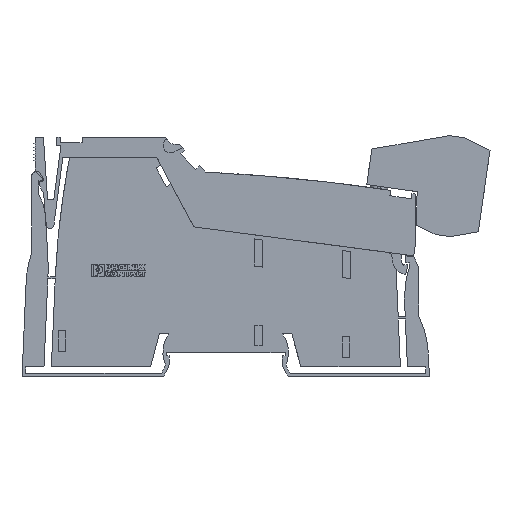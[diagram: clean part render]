
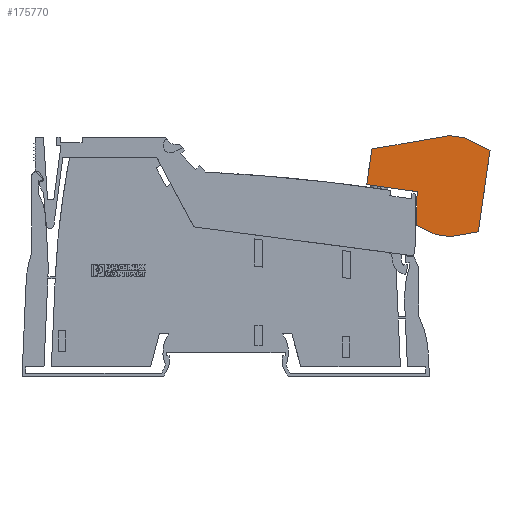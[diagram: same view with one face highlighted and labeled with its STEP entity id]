
A CAD part, left-side view. The second image highlights one B-rep face of the part: STEP entity #175770.
In plain terms, the highlighted planar face has unit normal (-1, 0, 0) as drawn and (0, 0, 1) by its records, which use the part's own axes.
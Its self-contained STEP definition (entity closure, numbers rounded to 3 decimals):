
#167170=CARTESIAN_POINT('',(22.423,97.146,
-35.525));
#167180=VERTEX_POINT('',#167170);
#167210=CARTESIAN_POINT('',(17.654,88.365,
-35.525));
#167220=DIRECTION('',(0.477,0.879,0.));
#167230=VECTOR('',#167220,1.);
#167240=LINE('',#167210,#167230);
#167250=CARTESIAN_POINT('',(27.158,105.862,
-35.525));
#167260=VERTEX_POINT('',#167250);
#167270=EDGE_CURVE('',#167180,#167260,#167240,.T.);
#168970=CARTESIAN_POINT('',(-16.172,77.267,
-35.525));
#168980=DIRECTION('',(-0.588,-0.809,0.));
#168990=VECTOR('',#168980,1.);
#169000=LINE('',#168970,#168990);
#169010=CARTESIAN_POINT('',(11.971,115.991,
-35.525));
#169020=VERTEX_POINT('',#169010);
#169030=CARTESIAN_POINT('',(-2.256,96.415,
-35.525));
#169040=VERTEX_POINT('',#169030);
#169050=EDGE_CURVE('',#169020,#169040,#169000,.T.);
#170840=CARTESIAN_POINT('',(19.971,113.391,
-35.525));
#170850=VERTEX_POINT('',#170840);
#170880=CARTESIAN_POINT('',(19.471,113.554,
-35.525));
#170890=DIRECTION('',(0.951,-0.309,0.));
#170900=VECTOR('',#170890,1.);
#170910=LINE('',#170880,#170900);
#170920=EDGE_CURVE('',#169020,#170850,#170910,.T.);
#172760=CARTESIAN_POINT('',(23.611,110.746,
-35.525));
#172770=VERTEX_POINT('',#172760);
#172800=CARTESIAN_POINT('',(19.567,113.685,
-35.525));
#172810=DIRECTION('',(0.809,-0.588,0.));
#172820=VECTOR('',#172810,1.);
#172830=LINE('',#172800,#172820);
#172840=EDGE_CURVE('',#170850,#172770,#172830,.T.);
#175220=CARTESIAN_POINT('',(10.83,96.717,
-35.525));
#175230=DIRECTION('',(0.,0.,1.));
#175240=DIRECTION('',(-0.809,0.588,0.));
#175250=AXIS2_PLACEMENT_3D('',#175220,#175230,#175240);
#175260=PLANE('',#175250);
#175270=ORIENTED_EDGE('',*,*,#169050,.T.);
#175280=ORIENTED_EDGE('',*,*,#170920,.F.);
#175290=ORIENTED_EDGE('',*,*,#172840,.F.);
#175300=CARTESIAN_POINT('',(21.758,113.298,
-35.525));
#175310=DIRECTION('',(-0.588,0.809,0.));
#175320=VECTOR('',#175310,1.);
#175330=LINE('',#175300,#175320);
#175340=EDGE_CURVE('',#167260,#172770,#175330,.T.);
#175350=ORIENTED_EDGE('',*,*,#175340,.T.);
#175360=ORIENTED_EDGE('',*,*,#167270,.T.);
#175370=CARTESIAN_POINT('',(2.709,111.473,
-35.525));
#175380=DIRECTION('',(-0.809,0.588,0.));
#175390=VECTOR('',#175380,1.);
#175400=LINE('',#175370,#175390);
#175410=CARTESIAN_POINT('',(34.529,88.347,
-35.525));
#175420=VERTEX_POINT('',#175410);
#175430=EDGE_CURVE('',#175420,#167180,#175400,.T.);
#175440=ORIENTED_EDGE('',*,*,#175430,.T.);
#175450=CARTESIAN_POINT('',(28.706,80.334,
-35.525));
#175460=DIRECTION('',(-0.588,-0.809,0.));
#175470=VECTOR('',#175460,1.);
#175480=LINE('',#175450,#175470);
#175490=CARTESIAN_POINT('',(28.327,79.813,
-35.525));
#175500=VERTEX_POINT('',#175490);
#175510=EDGE_CURVE('',#175420,#175500,#175480,.T.);
#175520=ORIENTED_EDGE('',*,*,#175510,.F.);
#175530=CARTESIAN_POINT('',(3.327,87.938,
-35.525));
#175540=DIRECTION('',(0.951,-0.309,0.));
#175550=VECTOR('',#175540,1.);
#175560=LINE('',#175530,#175550);
#175570=CARTESIAN_POINT('',(6.327,86.963,
-35.525));
#175580=VERTEX_POINT('',#175570);
#175590=EDGE_CURVE('',#175580,#175500,#175560,.T.);
#175600=ORIENTED_EDGE('',*,*,#175590,.T.);
#175610=CARTESIAN_POINT('',(3.9,88.727,
-35.525));
#175620=DIRECTION('',(-0.809,0.588,0.));
#175630=VECTOR('',#175620,1.);
#175640=LINE('',#175610,#175630);
#175650=CARTESIAN_POINT('',(2.687,89.609,
-35.525));
#175660=VERTEX_POINT('',#175650);
#175670=EDGE_CURVE('',#175580,#175660,#175640,.T.);
#175680=ORIENTED_EDGE('',*,*,#175670,.F.);
#175690=CARTESIAN_POINT('',(11.649,77.267,
-35.525));
#175700=DIRECTION('',(0.588,-0.809,0.));
#175710=VECTOR('',#175700,1.);
#175720=LINE('',#175690,#175710);
#175730=EDGE_CURVE('',#169040,#175660,#175720,.T.);
#175740=ORIENTED_EDGE('',*,*,#175730,.T.);
#175750=EDGE_LOOP('',(#175740,#175680,#175600,#175520,#175440,#175360,
#175350,#175290,#175280,#175270));
#175760=FACE_OUTER_BOUND('',#175750,.T.);
#175770=ADVANCED_FACE('',(#175760),#175260,.T.);
